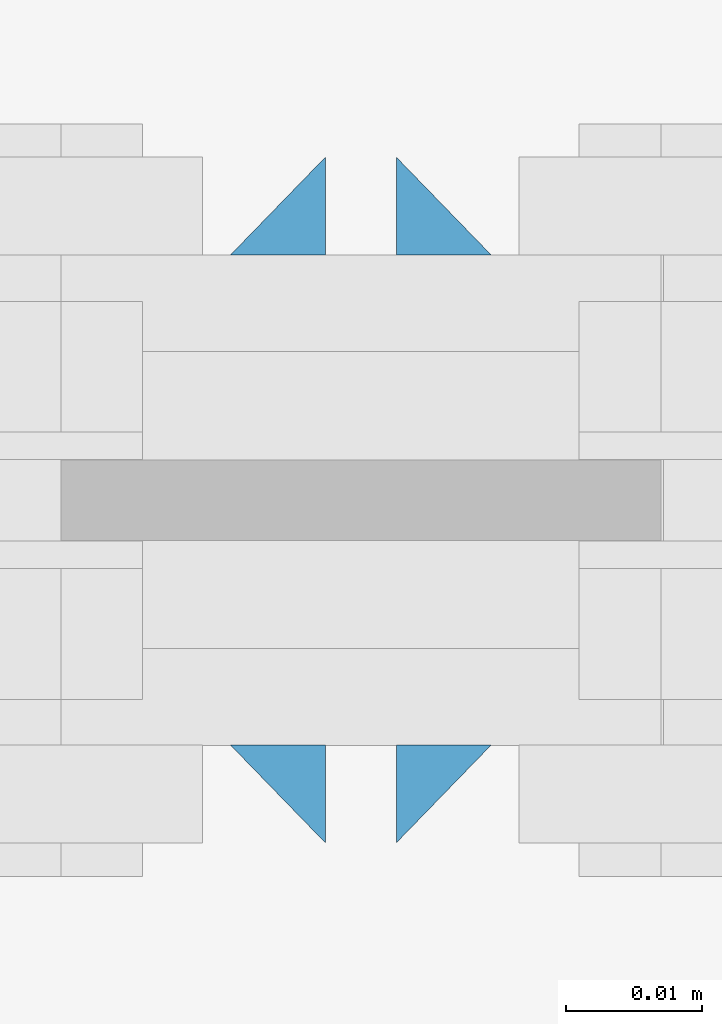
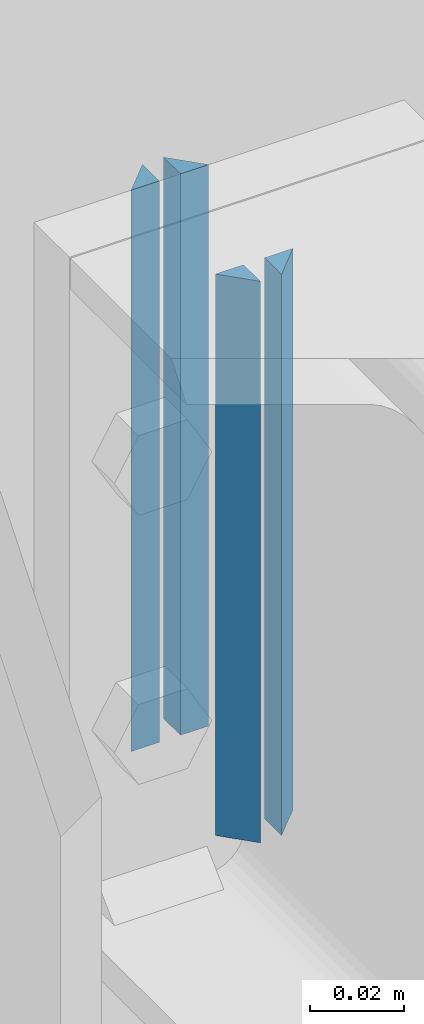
# One storey, part 33 of 251: 8 fasteners.
"""IFC4 building model written with IfcOpenShell, lengths in metres."""

from ifc_helpers import new_model, si_unit, frame, origin_with_axes, place, context, project, spatial, polyline, outline, extrude, type_object, element, save


model = new_model("IFC4")

# Units and contexts
model_context = context("Model", 3, precision=1e-05, world=origin_with_axes())
ifc_project = project(units=[si_unit("LENGTHUNIT", "METRE"), si_unit("AREAUNIT", "SQUARE_METRE"), si_unit("VOLUMEUNIT", "CUBIC_METRE"), si_unit("MASSUNIT", "GRAM", prefix="KILO"), si_unit("TIMEUNIT", "SECOND"), si_unit("PLANEANGLEUNIT", "RADIAN"), si_unit("SOLIDANGLEUNIT", "STERADIAN"), si_unit("THERMODYNAMICTEMPERATUREUNIT", "DEGREE_CELSIUS")], contexts=[model_context])

# Site, building, storey
placement_1 = place(None, origin_with_axes())
site = spatial("IfcSite", under=ifc_project, at=placement_1, Name="Italia", CompositionType="ELEMENT")
building = spatial("IfcBuilding", under=site, at=placement_1, Name="Deposito", CompositionType="ELEMENT")
storey = spatial("IfcBuildingStorey", under=building, at=placement_1, Name="Storey 0", CompositionType="ELEMENT", Elevation=0.0)

# Fasteners
fastener_type_1 = type_object("IfcFastenerType", Name="Collegamento -071_-070", PredefinedType="WELD")
placement_2 = place(placement_1, origin_with_axes())
fastener_1_placement = place(placement_2, origin_with_axes())
element("IfcFastener", 1, at=fastener_1_placement, inside=storey, type_object=fastener_type_1, Name="Collegamento -071_-070", context=model_context, shape_type="SweptSolid", body=[
    extrude(outline(polyline([(0.0, 0.0), (-0.00717354, 0.00695801), (0.0, 0.00695801), (0.0, 0.0)])), frame((6.04044, 9.98205, 6.89323), z_axis=(0.0, 0.0, -1.0), x_axis=(0.0, 1.0, 0.0)), (0.0, 0.0, 1.0), 0.146099),
])
fastener_type_2 = type_object("IfcFastenerType", Name="Collegamento -071_-070", PredefinedType="WELD")
fastener_2_placement = place(placement_2, origin_with_axes())
element("IfcFastener", 2, at=fastener_2_placement, inside=storey, type_object=fastener_type_2, Name="Collegamento -071_-070", context=model_context, shape_type="SweptSolid", body=[
    extrude(outline(polyline([(0.0, 0.0), (-0.00717354, 0.00695801), (0.0, 0.00695801), (0.0, 0.0)])), frame((6.05956, 9.98205, 6.74713), z_axis=(0.0, 0.0, 1.0), x_axis=(0.0, 1.0, 0.0)), (0.0, 0.0, 1.0), 0.146099),
])
fastener_type_3 = type_object("IfcFastenerType", Name="Collegamento -071_-070", PredefinedType="WELD")
fastener_3_placement = place(placement_2, origin_with_axes())
element("IfcFastener", 3, at=fastener_3_placement, inside=storey, type_object=fastener_type_3, Name="Collegamento -071_-070", context=model_context, shape_type="SweptSolid", body=[
    extrude(outline(polyline([(0.0, 0.0), (-0.00717354, 0.00695801), (0.0, 0.00695801), (0.0, 0.0)])), frame((6.04044, 9.98205, 6.89323), z_axis=(0.0, 0.0, -1.0), x_axis=(0.0, 1.0, 0.0)), (0.0, 0.0, 1.0), 0.146099),
])
fastener_type_4 = type_object("IfcFastenerType", Name="Collegamento -071_-070", PredefinedType="WELD")
fastener_4_placement = place(placement_2, origin_with_axes())
element("IfcFastener", 4, at=fastener_4_placement, inside=storey, type_object=fastener_type_4, Name="Collegamento -071_-070", context=model_context, shape_type="SweptSolid", body=[
    extrude(outline(polyline([(0.0, 0.0), (-0.00717354, 0.00695801), (0.0, 0.00695801), (0.0, 0.0)])), frame((6.05956, 9.98205, 6.74713), z_axis=(0.0, 0.0, 1.0), x_axis=(0.0, 1.0, 0.0)), (0.0, 0.0, 1.0), 0.146099),
])
fastener_type_5 = type_object("IfcFastenerType", Name="Collegamento -071_-072", PredefinedType="WELD")
fastener_5_placement = place(placement_2, origin_with_axes())
element("IfcFastener", 5, at=fastener_5_placement, inside=storey, type_object=fastener_type_5, Name="Collegamento -071_-072", context=model_context, shape_type="SweptSolid", body=[
    extrude(outline(polyline([(0.0, 0.0), (0.00717354, -0.00695801), (0.0, -0.00695801), (0.0, 0.0)])), frame((6.04044, 10.018, 6.74713), z_axis=(0.0, 0.0, 1.0), x_axis=(0.0, 1.0, 0.0)), (0.0, 0.0, 1.0), 0.146099),
])
fastener_type_6 = type_object("IfcFastenerType", Name="Collegamento -071_-072", PredefinedType="WELD")
fastener_6_placement = place(placement_2, origin_with_axes())
element("IfcFastener", 6, at=fastener_6_placement, inside=storey, type_object=fastener_type_6, Name="Collegamento -071_-072", context=model_context, shape_type="SweptSolid", body=[
    extrude(outline(polyline([(0.0, 0.0), (0.00717354, -0.00695801), (0.0, -0.00695801), (0.0, 0.0)])), frame((6.05956, 10.018, 6.89323), z_axis=(0.0, 0.0, -1.0), x_axis=(0.0, 1.0, 0.0)), (0.0, 0.0, 1.0), 0.146099),
])
fastener_type_7 = type_object("IfcFastenerType", Name="Collegamento -071_-072", PredefinedType="WELD")
fastener_7_placement = place(placement_2, origin_with_axes())
element("IfcFastener", 7, at=fastener_7_placement, inside=storey, type_object=fastener_type_7, Name="Collegamento -071_-072", context=model_context, shape_type="SweptSolid", body=[
    extrude(outline(polyline([(0.0, 0.0), (0.00717354, -0.00695801), (0.0, -0.00695801), (0.0, 0.0)])), frame((6.04044, 10.018, 6.74713), z_axis=(0.0, 0.0, 1.0), x_axis=(0.0, 1.0, 0.0)), (0.0, 0.0, 1.0), 0.146099),
])
fastener_type_8 = type_object("IfcFastenerType", Name="Collegamento -071_-072", PredefinedType="WELD")
fastener_8_placement = place(placement_2, origin_with_axes())
element("IfcFastener", 8, at=fastener_8_placement, inside=storey, type_object=fastener_type_8, Name="Collegamento -071_-072", context=model_context, shape_type="SweptSolid", body=[
    extrude(outline(polyline([(0.0, 0.0), (0.00717354, -0.00695801), (0.0, -0.00695801), (0.0, 0.0)])), frame((6.05956, 10.018, 6.89323), z_axis=(0.0, 0.0, -1.0), x_axis=(0.0, 1.0, 0.0)), (0.0, 0.0, 1.0), 0.146099),
])

save(model, "model.ifc")
